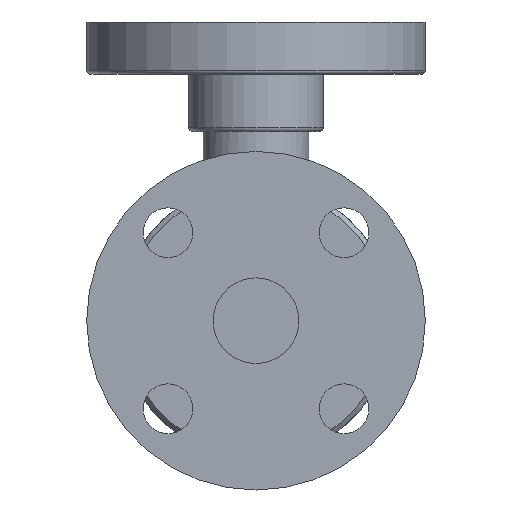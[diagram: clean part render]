
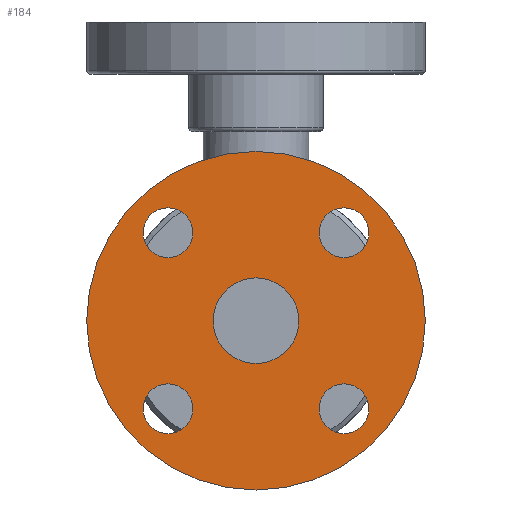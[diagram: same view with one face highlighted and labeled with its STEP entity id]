
A CAD part, front view. The second image highlights one B-rep face of the part: STEP entity #184.
In plain terms, the highlighted planar face has unit normal (0, -1, 0).
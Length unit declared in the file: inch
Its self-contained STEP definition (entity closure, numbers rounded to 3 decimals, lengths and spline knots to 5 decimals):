
#1 = VERTEX_POINT ( 'NONE', #4984 ) ;
#84 = FACE_OUTER_BOUND ( 'NONE', #4470, .T. ) ;
#105 = VERTEX_POINT ( 'NONE', #5015 ) ;
#184 = ADVANCED_FACE ( 'NONE', ( #2155, #4242, #84, #1028, #5206, #4119 ), #814, .F. ) ;
#186 = AXIS2_PLACEMENT_3D ( 'NONE', #2477, #1276, #4062 ) ;
#207 = DIRECTION ( 'NONE',  ( 0., 0., 1. ) ) ;
#246 = ORIENTED_EDGE ( 'NONE', *, *, #4305, .F. ) ;
#308 = ORIENTED_EDGE ( 'NONE', *, *, #914, .F. ) ;
#501 = EDGE_LOOP ( 'NONE', ( #4781, #2719 ) ) ;
#506 = AXIS2_PLACEMENT_3D ( 'NONE', #2573, #5393, #2957 ) ;
#526 = VERTEX_POINT ( 'NONE', #4951 ) ;
#527 = ORIENTED_EDGE ( 'NONE', *, *, #999, .T. ) ;
#570 = ORIENTED_EDGE ( 'NONE', *, *, #966, .T. ) ;
#781 = VERTEX_POINT ( 'NONE', #4859 ) ;
#814 = PLANE ( 'NONE',  #186 ) ;
#825 = DIRECTION ( 'NONE',  ( 0., 1., 0. ) ) ;
#828 = CARTESIAN_POINT ( 'NONE',  ( -1.10485, -2.5, -1.10485 ) ) ;
#894 = EDGE_CURVE ( 'NONE', #1, #1268, #5337, .T. ) ;
#914 = EDGE_CURVE ( 'NONE', #5181, #105, #2143, .T. ) ;
#923 = EDGE_CURVE ( 'NONE', #781, #3321, #3161, .T. ) ;
#966 = EDGE_CURVE ( 'NONE', #2502, #2594, #1884, .T. ) ;
#991 = EDGE_CURVE ( 'NONE', #1619, #4499, #4936, .T. ) ;
#999 = EDGE_CURVE ( 'NONE', #2563, #526, #3860, .T. ) ;
#1028 = FACE_BOUND ( 'NONE', #1649, .T. ) ;
#1038 = CARTESIAN_POINT ( 'NONE',  ( 0., -2.5, -2.125 ) ) ;
#1108 = AXIS2_PLACEMENT_3D ( 'NONE', #2552, #5370, #2939 ) ;
#1190 = EDGE_CURVE ( 'NONE', #2594, #2502, #2138, .T. ) ;
#1196 = AXIS2_PLACEMENT_3D ( 'NONE', #4974, #2590, #5416 ) ;
#1234 = EDGE_LOOP ( 'NONE', ( #1452, #2229 ) ) ;
#1268 = VERTEX_POINT ( 'NONE', #1814 ) ;
#1276 = DIRECTION ( 'NONE',  ( 0., 1., 0. ) ) ;
#1292 = DIRECTION ( 'NONE',  ( -1., 0., 0. ) ) ;
#1452 = ORIENTED_EDGE ( 'NONE', *, *, #4977, .T. ) ;
#1496 = AXIS2_PLACEMENT_3D ( 'NONE', #4039, #1666, #4435 ) ;
#1619 = VERTEX_POINT ( 'NONE', #3296 ) ;
#1649 = EDGE_LOOP ( 'NONE', ( #2049, #4230 ) ) ;
#1657 = CARTESIAN_POINT ( 'NONE',  ( 0., -2.5, 0. ) ) ;
#1666 = DIRECTION ( 'NONE',  ( 0., 1., 0. ) ) ;
#1696 = AXIS2_PLACEMENT_3D ( 'NONE', #4885, #2511, #5309 ) ;
#1814 = CARTESIAN_POINT ( 'NONE',  ( 0., -2.5, -0.5375 ) ) ;
#1884 = CIRCLE ( 'NONE', #1108, 0.3125 ) ;
#1955 = AXIS2_PLACEMENT_3D ( 'NONE', #3267, #825, #3678 ) ;
#2049 = ORIENTED_EDGE ( 'NONE', *, *, #4625, .T. ) ;
#2071 = DIRECTION ( 'NONE',  ( 0., 0., 1. ) ) ;
#2077 = CARTESIAN_POINT ( 'NONE',  ( 1.10485, -2.5, 0.79235 ) ) ;
#2138 = CIRCLE ( 'NONE', #3390, 0.3125 ) ;
#2143 = CIRCLE ( 'NONE', #1955, 2.125 ) ;
#2155 = FACE_BOUND ( 'NONE', #1234, .T. ) ;
#2211 = EDGE_CURVE ( 'NONE', #4499, #1619, #3285, .T. ) ;
#2229 = ORIENTED_EDGE ( 'NONE', *, *, #923, .T. ) ;
#2230 = CARTESIAN_POINT ( 'NONE',  ( -1.10485, -2.5, 1.10485 ) ) ;
#2236 = DIRECTION ( 'NONE',  ( 0., 1., 0. ) ) ;
#2272 = DIRECTION ( 'NONE',  ( 0., 1., 0. ) ) ;
#2290 = CIRCLE ( 'NONE', #4142, 2.125 ) ;
#2344 = ORIENTED_EDGE ( 'NONE', *, *, #1190, .T. ) ;
#2477 = CARTESIAN_POINT ( 'NONE',  ( 0., -2.5, 0. ) ) ;
#2502 = VERTEX_POINT ( 'NONE', #3141 ) ;
#2511 = DIRECTION ( 'NONE',  ( 0., 1., 0. ) ) ;
#2552 = CARTESIAN_POINT ( 'NONE',  ( -1.10485, -2.5, 1.10485 ) ) ;
#2563 = VERTEX_POINT ( 'NONE', #2872 ) ;
#2573 = CARTESIAN_POINT ( 'NONE',  ( 1.10485, -2.5, 1.10485 ) ) ;
#2590 = DIRECTION ( 'NONE',  ( 0., 1., 0. ) ) ;
#2594 = VERTEX_POINT ( 'NONE', #3064 ) ;
#2622 = DIRECTION ( 'NONE',  ( 0., 0., 1. ) ) ;
#2719 = ORIENTED_EDGE ( 'NONE', *, *, #991, .T. ) ;
#2745 = DIRECTION ( 'NONE',  ( 0., 1., 0. ) ) ;
#2872 = CARTESIAN_POINT ( 'NONE',  ( -1.10485, -2.5, -0.79235 ) ) ;
#2880 = ORIENTED_EDGE ( 'NONE', *, *, #3013, .T. ) ;
#2939 = DIRECTION ( 'NONE',  ( 0., 0., 1. ) ) ;
#2957 = DIRECTION ( 'NONE',  ( 1., 0., 0. ) ) ;
#3013 = EDGE_CURVE ( 'NONE', #526, #2563, #3721, .T. ) ;
#3017 = AXIS2_PLACEMENT_3D ( 'NONE', #1657, #4429, #2071 ) ;
#3064 = CARTESIAN_POINT ( 'NONE',  ( -1.10485, -2.5, 0.79235 ) ) ;
#3126 = CIRCLE ( 'NONE', #3887, 0.5375 ) ;
#3141 = CARTESIAN_POINT ( 'NONE',  ( -1.10485, -2.5, 1.41735 ) ) ;
#3161 = CIRCLE ( 'NONE', #1696, 0.3125 ) ;
#3171 = CARTESIAN_POINT ( 'NONE',  ( 1.10485, -2.5, -1.41735 ) ) ;
#3267 = CARTESIAN_POINT ( 'NONE',  ( 0., -2.5, 0. ) ) ;
#3285 = CIRCLE ( 'NONE', #1496, 0.3125 ) ;
#3296 = CARTESIAN_POINT ( 'NONE',  ( 1.10485, -2.5, 1.41735 ) ) ;
#3321 = VERTEX_POINT ( 'NONE', #3171 ) ;
#3390 = AXIS2_PLACEMENT_3D ( 'NONE', #2230, #5009, #2622 ) ;
#3633 = AXIS2_PLACEMENT_3D ( 'NONE', #4606, #2236, #5018 ) ;
#3678 = DIRECTION ( 'NONE',  ( 0., 0., 1. ) ) ;
#3681 = DIRECTION ( 'NONE',  ( 0., 1., 0. ) ) ;
#3721 = CIRCLE ( 'NONE', #5059, 0.3125 ) ;
#3860 = CIRCLE ( 'NONE', #1196, 0.3125 ) ;
#3885 = CIRCLE ( 'NONE', #3633, 0.3125 ) ;
#3887 = AXIS2_PLACEMENT_3D ( 'NONE', #4635, #2272, #5055 ) ;
#3956 = EDGE_LOOP ( 'NONE', ( #2880, #527 ) ) ;
#4039 = CARTESIAN_POINT ( 'NONE',  ( 1.10485, -2.5, 1.10485 ) ) ;
#4062 = DIRECTION ( 'NONE',  ( 0., 0., 1. ) ) ;
#4119 = FACE_BOUND ( 'NONE', #3956, .T. ) ;
#4142 = AXIS2_PLACEMENT_3D ( 'NONE', #5166, #2745, #207 ) ;
#4230 = ORIENTED_EDGE ( 'NONE', *, *, #894, .T. ) ;
#4242 = FACE_BOUND ( 'NONE', #5180, .T. ) ;
#4305 = EDGE_CURVE ( 'NONE', #105, #5181, #2290, .T. ) ;
#4429 = DIRECTION ( 'NONE',  ( 0., 1., 0. ) ) ;
#4435 = DIRECTION ( 'NONE',  ( 1., 0., 0. ) ) ;
#4470 = EDGE_LOOP ( 'NONE', ( #308, #246 ) ) ;
#4499 = VERTEX_POINT ( 'NONE', #2077 ) ;
#4606 = CARTESIAN_POINT ( 'NONE',  ( 1.10485, -2.5, -1.10485 ) ) ;
#4625 = EDGE_CURVE ( 'NONE', #1268, #1, #3126, .T. ) ;
#4635 = CARTESIAN_POINT ( 'NONE',  ( 0., -2.5, 0. ) ) ;
#4781 = ORIENTED_EDGE ( 'NONE', *, *, #2211, .T. ) ;
#4859 = CARTESIAN_POINT ( 'NONE',  ( 1.10485, -2.5, -0.79235 ) ) ;
#4885 = CARTESIAN_POINT ( 'NONE',  ( 1.10485, -2.5, -1.10485 ) ) ;
#4936 = CIRCLE ( 'NONE', #506, 0.3125 ) ;
#4951 = CARTESIAN_POINT ( 'NONE',  ( -1.10485, -2.5, -1.41735 ) ) ;
#4974 = CARTESIAN_POINT ( 'NONE',  ( -1.10485, -2.5, -1.10485 ) ) ;
#4977 = EDGE_CURVE ( 'NONE', #3321, #781, #3885, .T. ) ;
#4984 = CARTESIAN_POINT ( 'NONE',  ( 0., -2.5, 0.5375 ) ) ;
#5009 = DIRECTION ( 'NONE',  ( 0., 1., 0. ) ) ;
#5015 = CARTESIAN_POINT ( 'NONE',  ( 0., -2.5, 2.125 ) ) ;
#5018 = DIRECTION ( 'NONE',  ( 0., 0., -1. ) ) ;
#5055 = DIRECTION ( 'NONE',  ( 0., 0., 1. ) ) ;
#5059 = AXIS2_PLACEMENT_3D ( 'NONE', #828, #3681, #1292 ) ;
#5166 = CARTESIAN_POINT ( 'NONE',  ( 0., -2.5, 0. ) ) ;
#5180 = EDGE_LOOP ( 'NONE', ( #2344, #570 ) ) ;
#5181 = VERTEX_POINT ( 'NONE', #1038 ) ;
#5206 = FACE_BOUND ( 'NONE', #501, .T. ) ;
#5309 = DIRECTION ( 'NONE',  ( 0., 0., -1. ) ) ;
#5337 = CIRCLE ( 'NONE', #3017, 0.5375 ) ;
#5370 = DIRECTION ( 'NONE',  ( 0., 1., 0. ) ) ;
#5393 = DIRECTION ( 'NONE',  ( 0., 1., 0. ) ) ;
#5416 = DIRECTION ( 'NONE',  ( -1., 0., 0. ) ) ;
